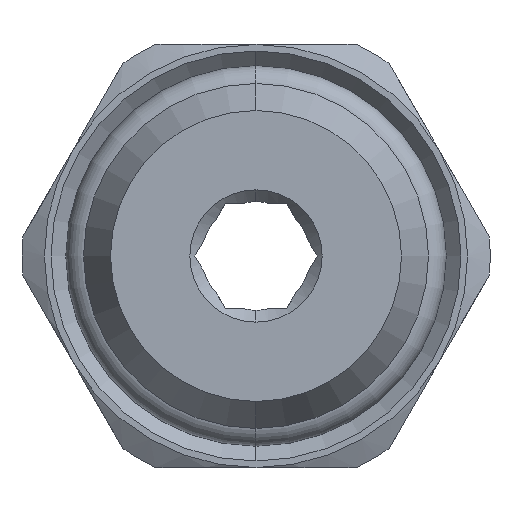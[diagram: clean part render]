
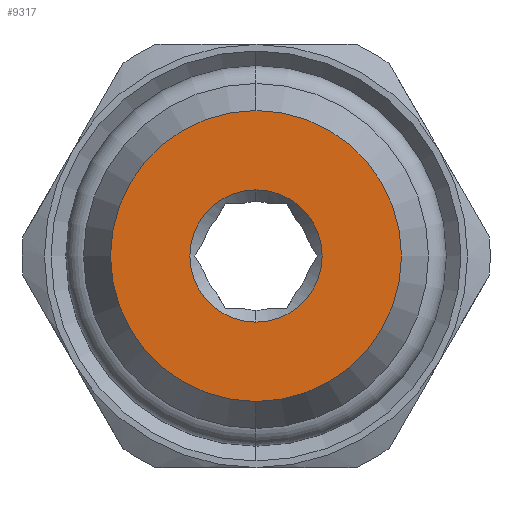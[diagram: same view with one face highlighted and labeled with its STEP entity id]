
A CAD part, front view. The second image highlights one B-rep face of the part: STEP entity #9317.
In plain terms, the highlighted planar face has unit normal (0, -1, 0).
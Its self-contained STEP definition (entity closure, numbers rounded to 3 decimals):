
#43 = DIRECTION ( 'NONE',  ( 0., -1., 0. ) ) ;
#151 = AXIS2_PLACEMENT_3D ( 'NONE', #6247, #43, #7315 ) ;
#555 = CARTESIAN_POINT ( 'NONE',  ( 0., 0., 0. ) ) ;
#782 = VERTEX_POINT ( 'NONE', #9437 ) ;
#1393 = CARTESIAN_POINT ( 'NONE',  ( 0., 0., 0. ) ) ;
#1459 = CIRCLE ( 'NONE', #5834, 2.5 ) ;
#1601 = DIRECTION ( 'NONE',  ( 0., 0., -1. ) ) ;
#2139 = AXIS2_PLACEMENT_3D ( 'NONE', #4274, #11580, #5294 ) ;
#2315 = VERTEX_POINT ( 'NONE', #3595 ) ;
#2437 = DIRECTION ( 'NONE',  ( 0., 0., 1. ) ) ;
#2457 = CARTESIAN_POINT ( 'NONE',  ( 0., 0., -5.5 ) ) ;
#3091 = EDGE_CURVE ( 'NONE', #782, #2315, #9127, .T. ) ;
#3241 = EDGE_CURVE ( 'NONE', #3287, #7242, #7892, .T. ) ;
#3287 = VERTEX_POINT ( 'NONE', #2457 ) ;
#3595 = CARTESIAN_POINT ( 'NONE',  ( 0., 0., -2.5 ) ) ;
#3645 = ORIENTED_EDGE ( 'NONE', *, *, #11825, .T. ) ;
#4274 = CARTESIAN_POINT ( 'NONE',  ( 0., 0., 0. ) ) ;
#4586 = AXIS2_PLACEMENT_3D ( 'NONE', #555, #7815, #1601 ) ;
#5230 = FACE_BOUND ( 'NONE', #6429, .T. ) ;
#5294 = DIRECTION ( 'NONE',  ( 0., 0., -1. ) ) ;
#5651 = CARTESIAN_POINT ( 'NONE',  ( 0., 0., 0. ) ) ;
#5737 = CIRCLE ( 'NONE', #2139, 5.5 ) ;
#5834 = AXIS2_PLACEMENT_3D ( 'NONE', #1393, #8671, #2437 ) ;
#5849 = CARTESIAN_POINT ( 'NONE',  ( 0., 0., 5.5 ) ) ;
#6247 = CARTESIAN_POINT ( 'NONE',  ( 0., 0., 0. ) ) ;
#6429 = EDGE_LOOP ( 'NONE', ( #10147, #11233 ) ) ;
#6706 = DIRECTION ( 'NONE',  ( 0., 0., 1. ) ) ;
#7242 = VERTEX_POINT ( 'NONE', #5849 ) ;
#7315 = DIRECTION ( 'NONE',  ( 0., 0., -1. ) ) ;
#7815 = DIRECTION ( 'NONE',  ( 0., -1., 0. ) ) ;
#7892 = CIRCLE ( 'NONE', #151, 5.5 ) ;
#8671 = DIRECTION ( 'NONE',  ( 0., 1., 0. ) ) ;
#8748 = EDGE_CURVE ( 'NONE', #2315, #782, #1459, .T. ) ;
#9127 = CIRCLE ( 'NONE', #10440, 2.5 ) ;
#9317 = ADVANCED_FACE ( 'NONE', ( #10484, #5230 ), #9864, .T. ) ;
#9437 = CARTESIAN_POINT ( 'NONE',  ( 0., 0., 2.5 ) ) ;
#9864 = PLANE ( 'NONE',  #4586 ) ;
#10050 = EDGE_LOOP ( 'NONE', ( #3645, #13108 ) ) ;
#10147 = ORIENTED_EDGE ( 'NONE', *, *, #8748, .T. ) ;
#10440 = AXIS2_PLACEMENT_3D ( 'NONE', #5651, #12983, #6706 ) ;
#10484 = FACE_OUTER_BOUND ( 'NONE', #10050, .T. ) ;
#11233 = ORIENTED_EDGE ( 'NONE', *, *, #3091, .T. ) ;
#11580 = DIRECTION ( 'NONE',  ( 0., -1., 0. ) ) ;
#11825 = EDGE_CURVE ( 'NONE', #7242, #3287, #5737, .T. ) ;
#12983 = DIRECTION ( 'NONE',  ( 0., 1., 0. ) ) ;
#13108 = ORIENTED_EDGE ( 'NONE', *, *, #3241, .T. ) ;
